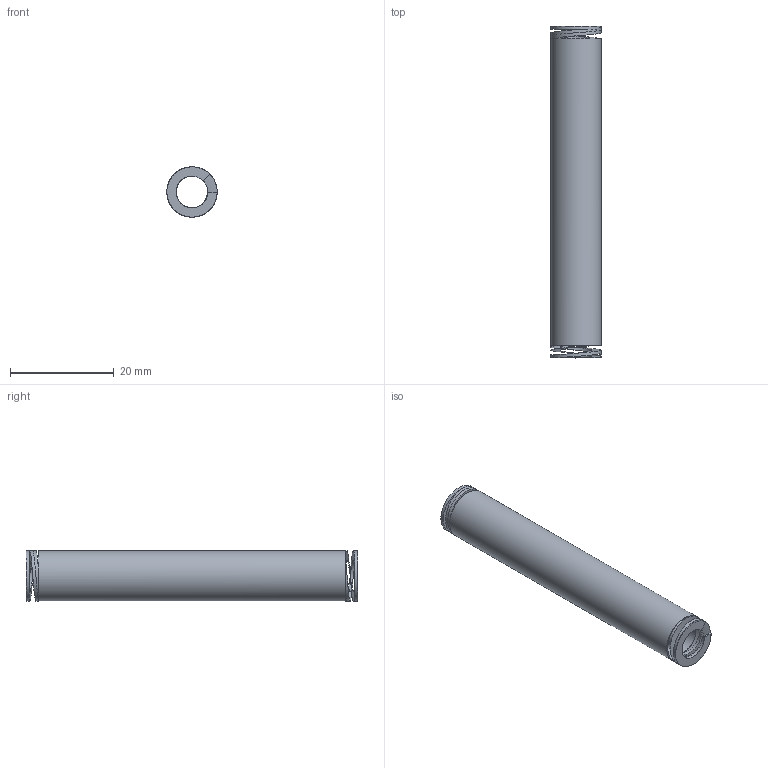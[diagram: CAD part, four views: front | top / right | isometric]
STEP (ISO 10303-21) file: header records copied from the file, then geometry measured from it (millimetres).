
FILE_DESCRIPTION(/* description */ ('Max 37,5% | 24 | 180'),/* implementation_level */ '2;1');
FILE_NAME(/* name */ '2S10065.step',/* time_stamp */ '2026-10-07T11:24:14+02:00',/* author */ ('2S'),/* organization */ ('1,8x1,2 prostokatny'),/* preprocessor_version */ 'ST-DEVELOPER v20.1',/* originating_system */ 'Autodesk Inventor 2026',/* authorisation */ '7.5');
FILE_SCHEMA (('AUTOMOTIVE_DESIGN { 1 0 10303 214 3 1 1 }'));
Length unit declared in the file: millimetre
Products named in the file (1): 2S10065
Bounding box: 9.7 x 64 x 9.7 mm (x, y, z)
Volume: 2778.7 mm3; surface area: 3400.4 mm2
Topology: 1 solids, 1 shells, 22 faces, 72 edges, 44 vertices
Faces by surface type: bspline 14, plane 6, cylinder 2
Full cylindrical faces by diameter (mm): 6.099 x1, 9.701 x1
Entity records: 2517 total; most frequent: CARTESIAN_POINT 2041, ORIENTED_EDGE 120, EDGE_CURVE 60, B_SPLINE_CURVE_WITH_KNOTS 48, VERTEX_POINT 38, DIRECTION 34, EDGE_LOOP 26, FACE_OUTER_BOUND 22
